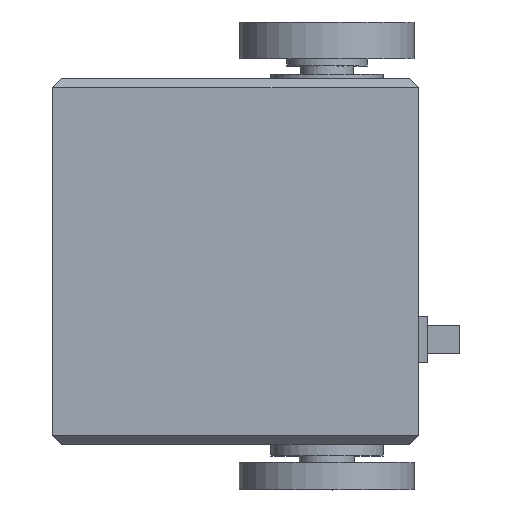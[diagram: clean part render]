
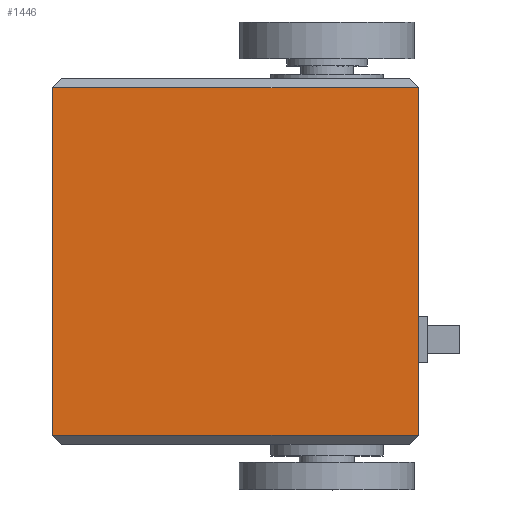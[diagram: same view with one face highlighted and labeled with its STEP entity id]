
A CAD part, top view. The second image highlights one B-rep face of the part: STEP entity #1446.
In plain terms, the highlighted planar face has unit normal (0, 0, 1).
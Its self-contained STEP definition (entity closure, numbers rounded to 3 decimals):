
#254=FACE_OUTER_BOUND('',#359,.T.);
#359=EDGE_LOOP('',(#1090,#1091,#1092,#1093));
#512=LINE('',#2319,#606);
#517=LINE('',#2328,#611);
#522=LINE('',#2358,#616);
#530=LINE('',#2372,#624);
#606=VECTOR('',#1818,10.);
#611=VECTOR('',#1827,10.);
#616=VECTOR('',#1856,10.);
#624=VECTOR('',#1872,10.);
#688=VERTEX_POINT('',#2311);
#690=VERTEX_POINT('',#2317);
#692=VERTEX_POINT('',#2326);
#705=VERTEX_POINT('',#2356);
#830=EDGE_CURVE('',#690,#688,#512,.T.);
#835=EDGE_CURVE('',#692,#690,#517,.T.);
#849=EDGE_CURVE('',#705,#692,#522,.T.);
#857=EDGE_CURVE('',#705,#688,#530,.T.);
#1090=ORIENTED_EDGE('',*,*,#830,.F.);
#1091=ORIENTED_EDGE('',*,*,#835,.F.);
#1092=ORIENTED_EDGE('',*,*,#849,.F.);
#1093=ORIENTED_EDGE('',*,*,#857,.T.);
#1394=PLANE('',#1588);
#1446=ADVANCED_FACE('',(#254),#1394,.F.);
#1588=AXIS2_PLACEMENT_3D('',#2371,#1870,#1871);
#1818=DIRECTION('',(-1.,0.,0.));
#1827=DIRECTION('',(0.,-1.,0.));
#1856=DIRECTION('',(1.,0.,0.));
#1870=DIRECTION('center_axis',(0.,0.,-1.));
#1871=DIRECTION('ref_axis',(0.,1.,0.));
#1872=DIRECTION('',(0.,-1.,0.));
#2311=CARTESIAN_POINT('',(0.,1.,20.));
#2317=CARTESIAN_POINT('',(40.,1.,20.));
#2319=CARTESIAN_POINT('',(20.,1.,20.));
#2326=CARTESIAN_POINT('',(40.,39.,20.));
#2328=CARTESIAN_POINT('',(40.,20.,20.));
#2356=CARTESIAN_POINT('',(0.,39.,20.));
#2358=CARTESIAN_POINT('',(20.,39.,20.));
#2371=CARTESIAN_POINT('Origin',(20.,20.,20.));
#2372=CARTESIAN_POINT('',(0.,20.,20.));
